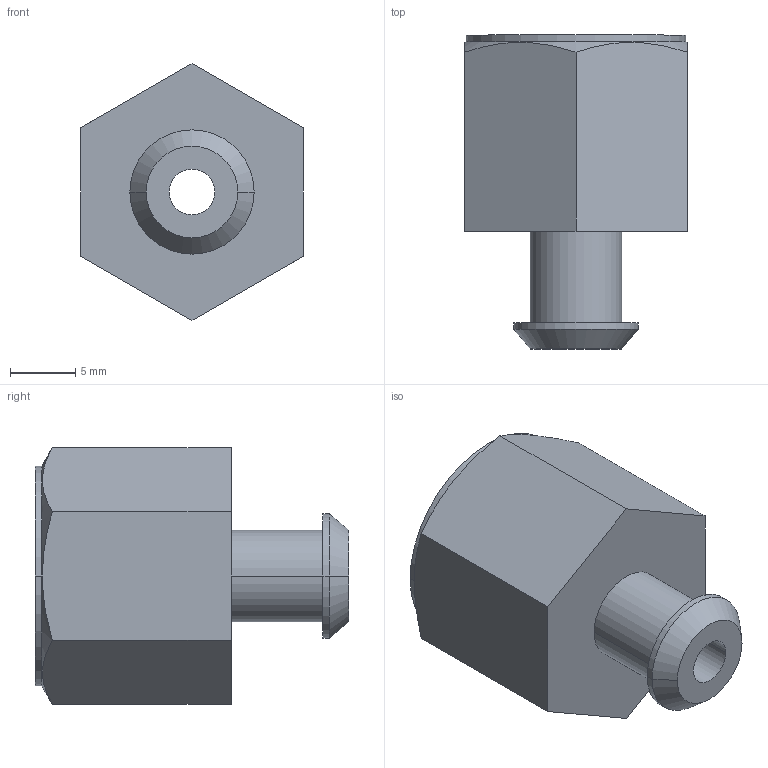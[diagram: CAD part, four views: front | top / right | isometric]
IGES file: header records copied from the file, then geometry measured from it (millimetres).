
Start section:  PTC IGES file: D:\Tpo v2\SharedFS\Outgoing\raccordFemelle8rCaT3F14X.igs
Global section: file name: D:\Tpo v2\SharedFS\Outgoing\raccordFemelle8rCaT3F14X.igs; native system:  by Parametric Technology Corporation; preprocessor: 2004280; organization: Unknown; date: 080325.095245; units: millimetre
Bounding box: 17 x 24 x 19.63 mm (x, y, z)
Volume: 2844.7 mm3; surface area: 2127 mm2
Topology: 1 solids, 1 shells, 27 faces, 60 edges, 38 vertices
Faces by surface type: revolution 16, bspline 11
